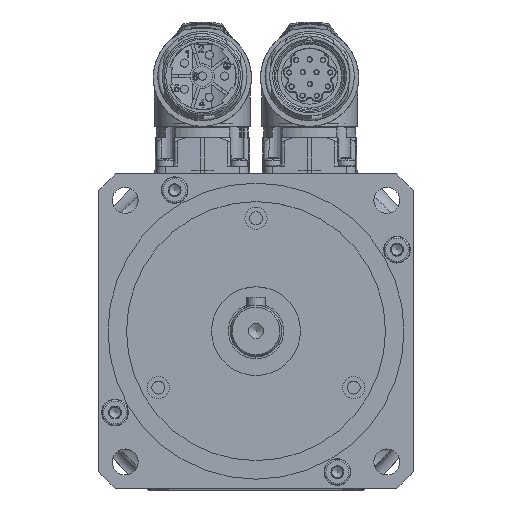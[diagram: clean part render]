
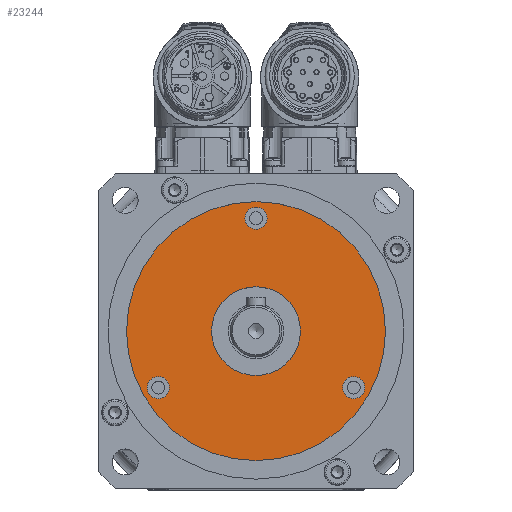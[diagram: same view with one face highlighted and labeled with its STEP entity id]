
A CAD part, top view. The second image highlights one B-rep face of the part: STEP entity #23244.
In plain terms, the highlighted planar face has unit normal (0, 0, 1).
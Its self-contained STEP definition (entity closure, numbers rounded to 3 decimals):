
#5044=PLANE('',#24765);
#5600=FACE_BOUND('',#7595,.T.);
#5601=FACE_BOUND('',#7596,.T.);
#5602=FACE_BOUND('',#7597,.T.);
#5603=FACE_BOUND('',#7598,.T.);
#5604=FACE_BOUND('',#7599,.T.);
#7595=EDGE_LOOP('',(#16316));
#7596=EDGE_LOOP('',(#16317));
#7597=EDGE_LOOP('',(#16318));
#7598=EDGE_LOOP('',(#16319));
#7599=EDGE_LOOP('',(#16320));
#9491=CIRCLE('',#24695,3.);
#9495=CIRCLE('',#24702,3.);
#9499=CIRCLE('',#24709,3.);
#9501=CIRCLE('',#24713,12.);
#9532=CIRCLE('',#24766,35.);
#10597=VERTEX_POINT('',#33326);
#10601=VERTEX_POINT('',#33337);
#10605=VERTEX_POINT('',#33348);
#10607=VERTEX_POINT('',#33354);
#10645=VERTEX_POINT('',#33456);
#12956=EDGE_CURVE('',#10597,#10597,#9491,.T.);
#12960=EDGE_CURVE('',#10601,#10601,#9495,.T.);
#12964=EDGE_CURVE('',#10605,#10605,#9499,.T.);
#12966=EDGE_CURVE('',#10607,#10607,#9501,.T.);
#13008=EDGE_CURVE('',#10645,#10645,#9532,.T.);
#16316=ORIENTED_EDGE('',*,*,#12956,.T.);
#16317=ORIENTED_EDGE('',*,*,#12960,.T.);
#16318=ORIENTED_EDGE('',*,*,#12964,.T.);
#16319=ORIENTED_EDGE('',*,*,#12966,.T.);
#16320=ORIENTED_EDGE('',*,*,#13008,.F.);
#23244=ADVANCED_FACE('',(#5600,#5601,#5602,#5603,#5604),#5044,.F.);
#24695=AXIS2_PLACEMENT_3D('',#33327,#27218,#27219);
#24702=AXIS2_PLACEMENT_3D('',#33338,#27232,#27233);
#24709=AXIS2_PLACEMENT_3D('',#33349,#27246,#27247);
#24713=AXIS2_PLACEMENT_3D('',#33355,#27254,#27255);
#24765=AXIS2_PLACEMENT_3D('',#33455,#27369,#27370);
#24766=AXIS2_PLACEMENT_3D('',#33457,#27371,#27372);
#27218=DIRECTION('center_axis',(0.,0.,-1.));
#27219=DIRECTION('ref_axis',(-0.5,0.866,0.));
#27232=DIRECTION('center_axis',(0.,0.,-1.));
#27233=DIRECTION('ref_axis',(-0.5,-0.866,0.));
#27246=DIRECTION('center_axis',(0.,0.,-1.));
#27247=DIRECTION('ref_axis',(1.,0.,0.));
#27254=DIRECTION('center_axis',(0.,0.,-1.));
#27255=DIRECTION('ref_axis',(-1.,0.,0.));
#27369=DIRECTION('center_axis',(0.,0.,-1.));
#27370=DIRECTION('ref_axis',(-1.,0.,0.));
#27371=DIRECTION('center_axis',(0.,0.,-1.));
#27372=DIRECTION('ref_axis',(-1.,0.,0.));
#33326=CARTESIAN_POINT('',(-27.914,-12.652,10.5));
#33327=CARTESIAN_POINT('Origin',(-26.414,-15.25,10.5));
#33337=CARTESIAN_POINT('',(24.914,-17.848,10.5));
#33338=CARTESIAN_POINT('Origin',(26.414,-15.25,10.5));
#33348=CARTESIAN_POINT('',(3.,30.5,10.5));
#33349=CARTESIAN_POINT('Origin',(0.,30.5,10.5));
#33354=CARTESIAN_POINT('',(12.,0.,10.5));
#33355=CARTESIAN_POINT('Origin',(0.,0.,10.5));
#33455=CARTESIAN_POINT('Origin',(0.,0.,
10.5));
#33456=CARTESIAN_POINT('',(35.,0.,10.5));
#33457=CARTESIAN_POINT('Origin',(0.,0.,10.5));
